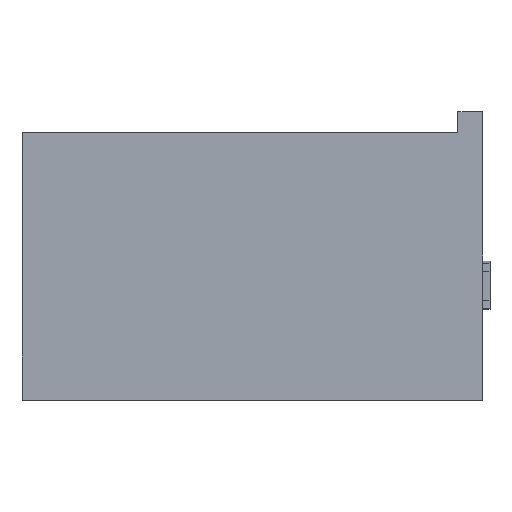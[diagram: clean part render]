
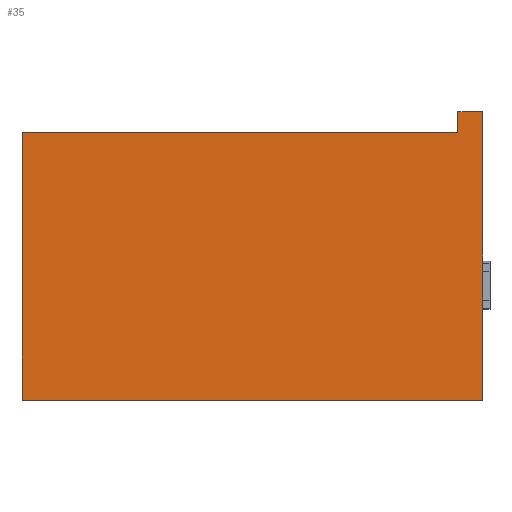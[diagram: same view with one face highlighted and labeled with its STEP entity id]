
A CAD part, left-side view. The second image highlights one B-rep face of the part: STEP entity #35.
In plain terms, the highlighted planar face has unit normal (-1, 0, 0).
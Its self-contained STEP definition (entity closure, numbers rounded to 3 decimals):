
#35 = ADVANCED_FACE('',(#36),#50,.F.);
#36 = FACE_BOUND('',#37,.F.);
#37 = EDGE_LOOP('',(#38,#73,#101,#129,#157,#185));
#38 = ORIENTED_EDGE('',*,*,#39,.F.);
#39 = EDGE_CURVE('',#40,#42,#44,.T.);
#40 = VERTEX_POINT('',#41);
#41 = CARTESIAN_POINT('',(-9.387,-3.,0.));
#42 = VERTEX_POINT('',#43);
#43 = CARTESIAN_POINT('',(-9.387,-3.,35.));
#44 = SURFACE_CURVE('',#45,(#49,#61),.PCURVE_S1.);
#45 = LINE('',#46,#47);
#46 = CARTESIAN_POINT('',(-9.387,-3.,0.));
#47 = VECTOR('',#48,1.);
#48 = DIRECTION('',(0.,0.,1.));
#49 = PCURVE('',#50,#55);
#50 = PLANE('',#51);
#51 = AXIS2_PLACEMENT_3D('',#52,#53,#54);
#52 = CARTESIAN_POINT('',(-9.387,-3.,0.));
#53 = DIRECTION('',(1.,0.,-0.));
#54 = DIRECTION('',(0.,0.,1.));
#55 = DEFINITIONAL_REPRESENTATION('',(#56),#60);
#56 = LINE('',#57,#58);
#57 = CARTESIAN_POINT('',(0.,0.));
#58 = VECTOR('',#59,1.);
#59 = DIRECTION('',(1.,0.));
#60 = ( GEOMETRIC_REPRESENTATION_CONTEXT(2) 
PARAMETRIC_REPRESENTATION_CONTEXT() REPRESENTATION_CONTEXT('2D SPACE',''
  ) );
#61 = PCURVE('',#62,#67);
#62 = PLANE('',#63);
#63 = AXIS2_PLACEMENT_3D('',#64,#65,#66);
#64 = CARTESIAN_POINT('',(-9.387,-3.,0.));
#65 = DIRECTION('',(-0.,1.,0.));
#66 = DIRECTION('',(0.,0.,1.));
#67 = DEFINITIONAL_REPRESENTATION('',(#68),#72);
#68 = LINE('',#69,#70);
#69 = CARTESIAN_POINT('',(0.,0.));
#70 = VECTOR('',#71,1.);
#71 = DIRECTION('',(1.,0.));
#72 = ( GEOMETRIC_REPRESENTATION_CONTEXT(2) 
PARAMETRIC_REPRESENTATION_CONTEXT() REPRESENTATION_CONTEXT('2D SPACE',''
  ) );
#73 = ORIENTED_EDGE('',*,*,#74,.F.);
#74 = EDGE_CURVE('',#75,#40,#77,.T.);
#75 = VERTEX_POINT('',#76);
#76 = CARTESIAN_POINT('',(-9.387,52.935,0.));
#77 = SURFACE_CURVE('',#78,(#82,#89),.PCURVE_S1.);
#78 = LINE('',#79,#80);
#79 = CARTESIAN_POINT('',(-9.387,52.935,0.));
#80 = VECTOR('',#81,1.);
#81 = DIRECTION('',(0.,-1.,0.));
#82 = PCURVE('',#50,#83);
#83 = DEFINITIONAL_REPRESENTATION('',(#84),#88);
#84 = LINE('',#85,#86);
#85 = CARTESIAN_POINT('',(0.,-55.935));
#86 = VECTOR('',#87,1.);
#87 = DIRECTION('',(0.,1.));
#88 = ( GEOMETRIC_REPRESENTATION_CONTEXT(2) 
PARAMETRIC_REPRESENTATION_CONTEXT() REPRESENTATION_CONTEXT('2D SPACE',''
  ) );
#89 = PCURVE('',#90,#95);
#90 = PLANE('',#91);
#91 = AXIS2_PLACEMENT_3D('',#92,#93,#94);
#92 = CARTESIAN_POINT('',(-9.387,-3.,0.));
#93 = DIRECTION('',(0.,0.,1.));
#94 = DIRECTION('',(1.,0.,-0.));
#95 = DEFINITIONAL_REPRESENTATION('',(#96),#100);
#96 = LINE('',#97,#98);
#97 = CARTESIAN_POINT('',(0.,55.935));
#98 = VECTOR('',#99,1.);
#99 = DIRECTION('',(0.,-1.));
#100 = ( GEOMETRIC_REPRESENTATION_CONTEXT(2) 
PARAMETRIC_REPRESENTATION_CONTEXT() REPRESENTATION_CONTEXT('2D SPACE',''
  ) );
#101 = ORIENTED_EDGE('',*,*,#102,.T.);
#102 = EDGE_CURVE('',#75,#103,#105,.T.);
#103 = VERTEX_POINT('',#104);
#104 = CARTESIAN_POINT('',(-9.387,52.935,32.5));
#105 = SURFACE_CURVE('',#106,(#110,#117),.PCURVE_S1.);
#106 = LINE('',#107,#108);
#107 = CARTESIAN_POINT('',(-9.387,52.935,0.));
#108 = VECTOR('',#109,1.);
#109 = DIRECTION('',(0.,0.,1.));
#110 = PCURVE('',#50,#111);
#111 = DEFINITIONAL_REPRESENTATION('',(#112),#116);
#112 = LINE('',#113,#114);
#113 = CARTESIAN_POINT('',(0.,-55.935));
#114 = VECTOR('',#115,1.);
#115 = DIRECTION('',(1.,0.));
#116 = ( GEOMETRIC_REPRESENTATION_CONTEXT(2) 
PARAMETRIC_REPRESENTATION_CONTEXT() REPRESENTATION_CONTEXT('2D SPACE',''
  ) );
#117 = PCURVE('',#118,#123);
#118 = PLANE('',#119);
#119 = AXIS2_PLACEMENT_3D('',#120,#121,#122);
#120 = CARTESIAN_POINT('',(-9.387,52.935,0.));
#121 = DIRECTION('',(-0.,1.,0.));
#122 = DIRECTION('',(0.,0.,1.));
#123 = DEFINITIONAL_REPRESENTATION('',(#124),#128);
#124 = LINE('',#125,#126);
#125 = CARTESIAN_POINT('',(0.,0.));
#126 = VECTOR('',#127,1.);
#127 = DIRECTION('',(1.,0.));
#128 = ( GEOMETRIC_REPRESENTATION_CONTEXT(2) 
PARAMETRIC_REPRESENTATION_CONTEXT() REPRESENTATION_CONTEXT('2D SPACE',''
  ) );
#129 = ORIENTED_EDGE('',*,*,#130,.F.);
#130 = EDGE_CURVE('',#131,#103,#133,.T.);
#131 = VERTEX_POINT('',#132);
#132 = CARTESIAN_POINT('',(-9.387,0.,32.5));
#133 = SURFACE_CURVE('',#134,(#138,#145),.PCURVE_S1.);
#134 = LINE('',#135,#136);
#135 = CARTESIAN_POINT('',(-9.387,0.,32.5));
#136 = VECTOR('',#137,1.);
#137 = DIRECTION('',(-0.,1.,0.));
#138 = PCURVE('',#50,#139);
#139 = DEFINITIONAL_REPRESENTATION('',(#140),#144);
#140 = LINE('',#141,#142);
#141 = CARTESIAN_POINT('',(32.5,-3.));
#142 = VECTOR('',#143,1.);
#143 = DIRECTION('',(0.,-1.));
#144 = ( GEOMETRIC_REPRESENTATION_CONTEXT(2) 
PARAMETRIC_REPRESENTATION_CONTEXT() REPRESENTATION_CONTEXT('2D SPACE',''
  ) );
#145 = PCURVE('',#146,#151);
#146 = PLANE('',#147);
#147 = AXIS2_PLACEMENT_3D('',#148,#149,#150);
#148 = CARTESIAN_POINT('',(-9.387,0.,32.5));
#149 = DIRECTION('',(0.,0.,1.));
#150 = DIRECTION('',(1.,0.,-0.));
#151 = DEFINITIONAL_REPRESENTATION('',(#152),#156);
#152 = LINE('',#153,#154);
#153 = CARTESIAN_POINT('',(0.,0.));
#154 = VECTOR('',#155,1.);
#155 = DIRECTION('',(0.,1.));
#156 = ( GEOMETRIC_REPRESENTATION_CONTEXT(2) 
PARAMETRIC_REPRESENTATION_CONTEXT() REPRESENTATION_CONTEXT('2D SPACE',''
  ) );
#157 = ORIENTED_EDGE('',*,*,#158,.T.);
#158 = EDGE_CURVE('',#131,#159,#161,.T.);
#159 = VERTEX_POINT('',#160);
#160 = CARTESIAN_POINT('',(-9.387,0.,35.));
#161 = SURFACE_CURVE('',#162,(#166,#173),.PCURVE_S1.);
#162 = LINE('',#163,#164);
#163 = CARTESIAN_POINT('',(-9.387,0.,0.));
#164 = VECTOR('',#165,1.);
#165 = DIRECTION('',(0.,0.,1.));
#166 = PCURVE('',#50,#167);
#167 = DEFINITIONAL_REPRESENTATION('',(#168),#172);
#168 = LINE('',#169,#170);
#169 = CARTESIAN_POINT('',(0.,-3.));
#170 = VECTOR('',#171,1.);
#171 = DIRECTION('',(1.,0.));
#172 = ( GEOMETRIC_REPRESENTATION_CONTEXT(2) 
PARAMETRIC_REPRESENTATION_CONTEXT() REPRESENTATION_CONTEXT('2D SPACE',''
  ) );
#173 = PCURVE('',#174,#179);
#174 = PLANE('',#175);
#175 = AXIS2_PLACEMENT_3D('',#176,#177,#178);
#176 = CARTESIAN_POINT('',(-9.387,0.,0.));
#177 = DIRECTION('',(-0.,1.,0.));
#178 = DIRECTION('',(0.,0.,1.));
#179 = DEFINITIONAL_REPRESENTATION('',(#180),#184);
#180 = LINE('',#181,#182);
#181 = CARTESIAN_POINT('',(0.,0.));
#182 = VECTOR('',#183,1.);
#183 = DIRECTION('',(1.,0.));
#184 = ( GEOMETRIC_REPRESENTATION_CONTEXT(2) 
PARAMETRIC_REPRESENTATION_CONTEXT() REPRESENTATION_CONTEXT('2D SPACE',''
  ) );
#185 = ORIENTED_EDGE('',*,*,#186,.F.);
#186 = EDGE_CURVE('',#42,#159,#187,.T.);
#187 = SURFACE_CURVE('',#188,(#192,#199),.PCURVE_S1.);
#188 = LINE('',#189,#190);
#189 = CARTESIAN_POINT('',(-9.387,-3.,35.));
#190 = VECTOR('',#191,1.);
#191 = DIRECTION('',(-0.,1.,0.));
#192 = PCURVE('',#50,#193);
#193 = DEFINITIONAL_REPRESENTATION('',(#194),#198);
#194 = LINE('',#195,#196);
#195 = CARTESIAN_POINT('',(35.,0.));
#196 = VECTOR('',#197,1.);
#197 = DIRECTION('',(0.,-1.));
#198 = ( GEOMETRIC_REPRESENTATION_CONTEXT(2) 
PARAMETRIC_REPRESENTATION_CONTEXT() REPRESENTATION_CONTEXT('2D SPACE',''
  ) );
#199 = PCURVE('',#200,#205);
#200 = PLANE('',#201);
#201 = AXIS2_PLACEMENT_3D('',#202,#203,#204);
#202 = CARTESIAN_POINT('',(-9.387,-3.,35.));
#203 = DIRECTION('',(0.,0.,1.));
#204 = DIRECTION('',(1.,0.,-0.));
#205 = DEFINITIONAL_REPRESENTATION('',(#206),#210);
#206 = LINE('',#207,#208);
#207 = CARTESIAN_POINT('',(0.,0.));
#208 = VECTOR('',#209,1.);
#209 = DIRECTION('',(0.,1.));
#210 = ( GEOMETRIC_REPRESENTATION_CONTEXT(2) 
PARAMETRIC_REPRESENTATION_CONTEXT() REPRESENTATION_CONTEXT('2D SPACE',''
  ) );
